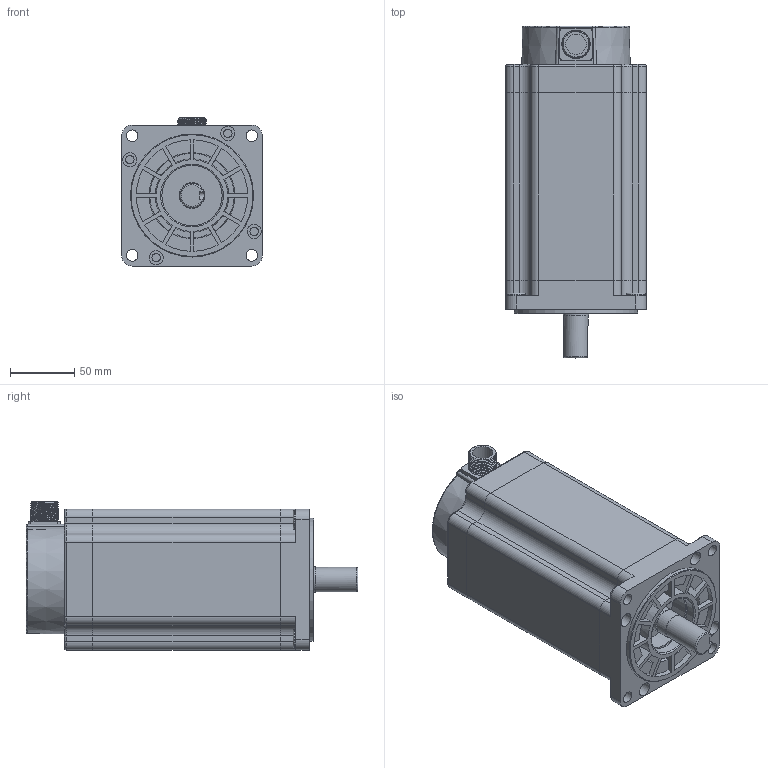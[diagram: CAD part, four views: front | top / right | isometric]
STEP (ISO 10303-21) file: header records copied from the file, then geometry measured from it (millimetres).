
FILE_DESCRIPTION(/* description */ (''),/* implementation_level */ '2;1');
FILE_NAME(/* name */ '110BYG350D(止口φ95).stp',/* time_stamp */ '2024-08-15T16:42:37+08:00',/* author */ (''),/* organization */ (''),/* preprocessor_version */ 'ST-DEVELOPER v18.1',/* originating_system */ 'SIEMENS PLM Software NX 2000',/* authorisation */ '');
FILE_SCHEMA (('AUTOMOTIVE_DESIGN { 1 0 10303 214 3 1 1 1 }'));
Length unit declared in the file: millimetre
Products named in the file (1): 925032A4A3696t5z
Bounding box: 110 x 259 x 115.5 mm (x, y, z)
Volume: 2072677.8 mm3; surface area: 198495.7 mm2
Topology: 5 solids, 5 shells, 413 faces, 1073 edges, 709 vertices
Faces by surface type: plane 198, cylinder 149, cone 31, torus 31, bspline 4
Full cylindrical faces by diameter (mm): 3 x4, 6 x4, 6.5 x8, 9 x4, 11 x4, 15 x4, 16 x1, 19 x1, 19.7 x1, 20 x2, 47 x2, 50 x1, 56 x1, 69 x1, 70 x1, 96 x1
Entity records: 15105 total; most frequent: CARTESIAN_POINT 5084, DIRECTION 2124, ORIENTED_EDGE 1988, EDGE_CURVE 994, AXIS2_PLACEMENT_3D 833, VERTEX_POINT 681, EDGE_LOOP 527, LINE 458
